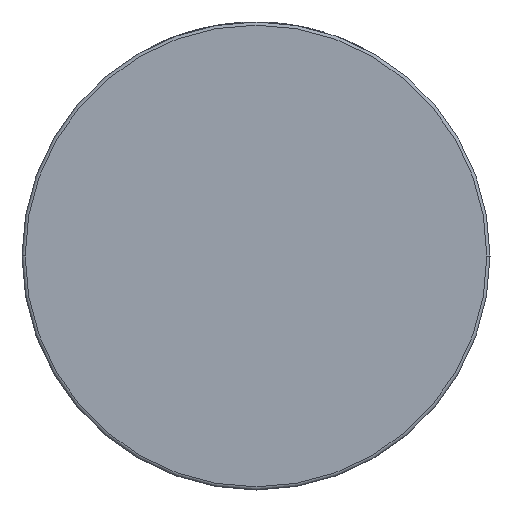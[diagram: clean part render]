
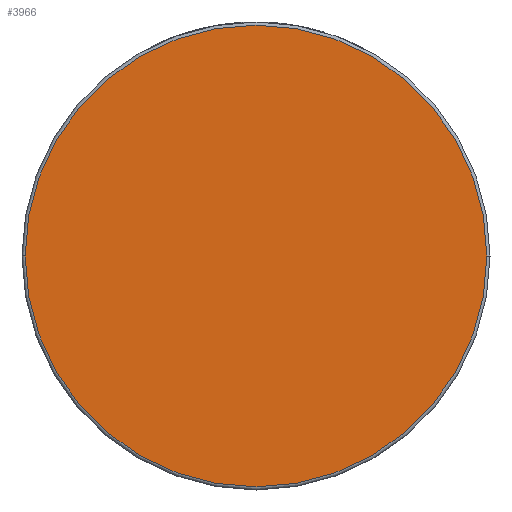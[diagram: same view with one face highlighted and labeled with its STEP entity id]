
A CAD part, front view. The second image highlights one B-rep face of the part: STEP entity #3966.
In plain terms, the highlighted planar face has unit normal (0, -1, 0).
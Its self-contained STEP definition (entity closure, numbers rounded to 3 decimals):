
#208 = AXIS2_PLACEMENT_3D ( 'NONE', #719, #1691, #328 ) ;
#328 = DIRECTION ( 'NONE',  ( 1., 0., 0. ) ) ;
#719 = CARTESIAN_POINT ( 'NONE',  ( 0., -38., 0. ) ) ;
#1092 = DIRECTION ( 'NONE',  ( 1., 0., 0. ) ) ;
#1352 = EDGE_LOOP ( 'NONE', ( #3711, #2906 ) ) ;
#1501 = DIRECTION ( 'NONE',  ( 1., 0., 0. ) ) ;
#1691 = DIRECTION ( 'NONE',  ( 0., -1., 0. ) ) ;
#1804 = DIRECTION ( 'NONE',  ( 0., -1., 0. ) ) ;
#1908 = CIRCLE ( 'NONE', #208, 73. ) ;
#2166 = CARTESIAN_POINT ( 'NONE',  ( 73., -38., 0. ) ) ;
#2174 = CARTESIAN_POINT ( 'NONE',  ( -73., -38., 0. ) ) ;
#2240 = PLANE ( 'NONE',  #2584 ) ;
#2500 = CARTESIAN_POINT ( 'NONE',  ( 0., -38., 0. ) ) ;
#2584 = AXIS2_PLACEMENT_3D ( 'NONE', #2911, #3923, #1092 ) ;
#2848 = VERTEX_POINT ( 'NONE', #2166 ) ;
#2906 = ORIENTED_EDGE ( 'NONE', *, *, #3956, .T. ) ;
#2911 = CARTESIAN_POINT ( 'NONE',  ( 74., -38., 0. ) ) ;
#3426 = EDGE_CURVE ( 'NONE', #2848, #4418, #1908, .T. ) ;
#3711 = ORIENTED_EDGE ( 'NONE', *, *, #3426, .T. ) ;
#3923 = DIRECTION ( 'NONE',  ( 0., -1., 0. ) ) ;
#3924 = AXIS2_PLACEMENT_3D ( 'NONE', #2500, #1804, #1501 ) ;
#3956 = EDGE_CURVE ( 'NONE', #4418, #2848, #4068, .T. ) ;
#3966 = ADVANCED_FACE ( 'NONE', ( #3967 ), #2240, .T. ) ;
#3967 = FACE_OUTER_BOUND ( 'NONE', #1352, .T. ) ;
#4068 = CIRCLE ( 'NONE', #3924, 73. ) ;
#4418 = VERTEX_POINT ( 'NONE', #2174 ) ;
